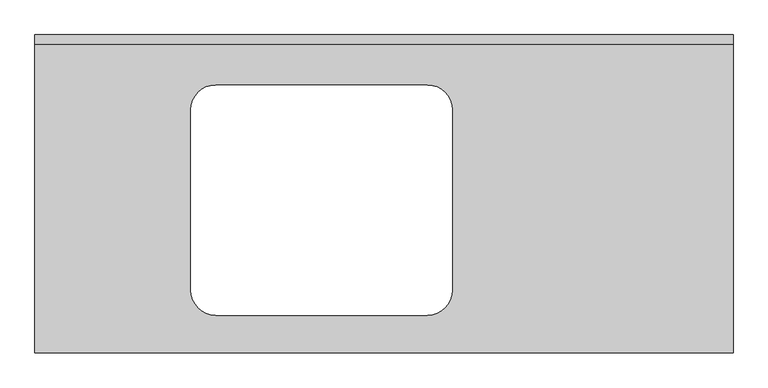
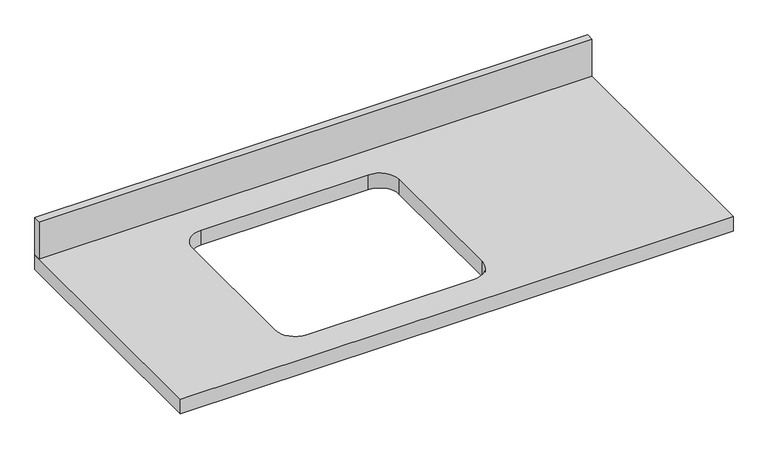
"""IFC4 building model written with IfcOpenShell, lengths in millimetres: furniture geometry, 洗面カウンタ 正方形 シンク開口 - 3D : 奥行き 600 mm."""

from ifc_helpers import new_model, si_unit, point, frame, frame_2d, origin, place, context, project, spatial, polyline, circle_curve, trimmed, segment, composite_curve, outline, extrude, source, transform, mapped, element, save


def furniture_7bc7545d(model_context):
    return source(origin(), model_context, "Body", "SweptSolid", [
        extrude(outline(polyline([(156.2752049, 0.0), (156.2752049, -650.0), (-1268.7247951, -650.0), (-1268.7247951, 0.0), (156.2752049, 0.0)]), holes=[composite_curve([segment(trimmed(circle_curve(frame_2d((-899.6247951, -153.1)), 50.8), [point((-899.6247951, -102.3))], [point((-950.4247951, -153.1))], True, "CARTESIAN"), True, "CONTINUOUS"), segment(polyline([(-950.4247951, -153.1), (-950.4247951, -521.9)]), True, "CONTINUOUS"), segment(trimmed(circle_curve(frame_2d((-899.6247951, -521.9)), 50.8), [point((-950.4247951, -521.9))], [point((-899.6247951, -572.7))], True, "CARTESIAN"), True, "CONTINUOUS"), segment(polyline([(-899.6247951, -572.7), (-467.8247951, -572.7)]), True, "CONTINUOUS"), segment(trimmed(circle_curve(frame_2d((-467.8247951, -521.9)), 50.8), [point((-467.8247951, -572.7))], [point((-417.0247951, -521.9))], True, "CARTESIAN"), True, "CONTINUOUS"), segment(polyline([(-417.0247951, -521.9), (-417.0247951, -153.1)]), True, "CONTINUOUS"), segment(trimmed(circle_curve(frame_2d((-467.8247951, -153.1)), 50.8), [point((-417.0247951, -153.1))], [point((-467.8247951, -102.3))], True, "CARTESIAN"), True, "CONTINUOUS"), segment(polyline([(-467.8247951, -102.3), (-899.6247951, -102.3)]), True, "CONTINUOUS")], self_intersect=False)]), frame((0.0, 0.0, 710.0), z_axis=(0.0, 0.0, 1.0), x_axis=(1.0, 0.0, 0.0)), (0.0, 0.0, 1.0), 40.0),
        extrude(outline(polyline([(-1268.7247951, 0.0), (156.2752049, 0.0), (156.2752049, -19.05), (-1268.7247951, -19.05), (-1268.7247951, 0.0)])), frame((0.0, 0.0, 750.0), z_axis=(0.0, 0.0, 1.0), x_axis=(1.0, 0.0, 0.0)), (0.0, 0.0, 1.0), 101.6),
    ])


if __name__ == "__main__":
    model = new_model("IFC4")
    model_context = context("Model", 3, world=origin())
    ifc_project = project(units=[si_unit("LENGTHUNIT", "METRE", prefix="MILLI")], contexts=[model_context])
    site = spatial("IfcSite", under=ifc_project)
    building = spatial("IfcBuilding", under=site)
    placement = place(None, origin())
    furniture_shape = furniture_7bc7545d(model_context)
    element("IfcFurniture", 1, ObjectType="洗面カウンタ 正方形 シンク開口 - 3D : 奥行き 600 mm", at=placement, inside=building, context=model_context, shape_type="MappedRepresentation", body=[
        mapped(furniture_shape, transform((0.0, 0.0, 0.0), x_axis=(1.0, 0.0, 0.0), y_axis=(0.0, 1.0, 0.0), z_axis=(0.0, 0.0, 1.0))),
    ])
    save(model, "model.ifc")
